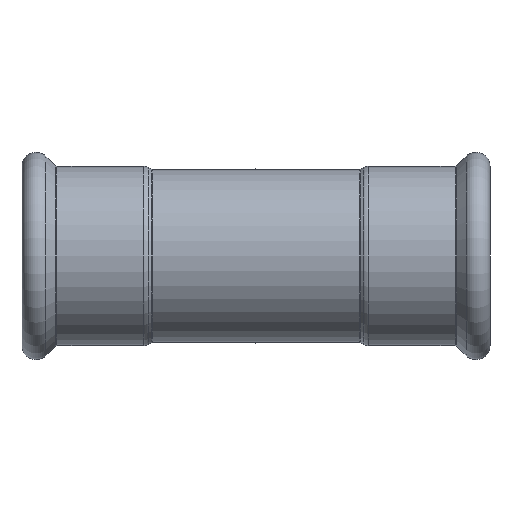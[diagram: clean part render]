
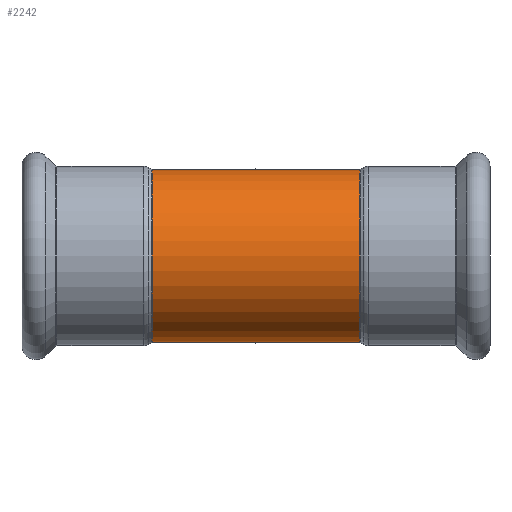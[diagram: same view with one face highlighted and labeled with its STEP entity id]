
A CAD part, front view. The second image highlights one B-rep face of the part: STEP entity #2242.
In plain terms, the highlighted cylindrical face has radius 18.5 mm (diameter 37 mm), a partial arc.
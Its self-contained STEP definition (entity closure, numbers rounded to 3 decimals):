
#10 = EDGE_LOOP ( 'NONE', ( #3985, #2024, #4286, #1943 ) ) ;
#190 = CARTESIAN_POINT ( 'NONE',  ( -22.154, 0., 18.5 ) ) ;
#227 = VECTOR ( 'NONE', #2190, 1000. ) ;
#239 = CARTESIAN_POINT ( 'NONE',  ( 22.154, 0., 18.5 ) ) ;
#346 = VERTEX_POINT ( 'NONE', #1388 ) ;
#482 = CARTESIAN_POINT ( 'NONE',  ( 22.154, 0., 0. ) ) ;
#521 = CYLINDRICAL_SURFACE ( 'NONE', #2817, 18.5 ) ;
#554 = AXIS2_PLACEMENT_3D ( 'NONE', #1704, #3741, #2699 ) ;
#564 = EDGE_CURVE ( 'NONE', #346, #1839, #1327, .T. ) ;
#831 = EDGE_CURVE ( 'NONE', #2433, #4367, #1667, .T. ) ;
#1327 = LINE ( 'NONE', #1773, #4070 ) ;
#1388 = CARTESIAN_POINT ( 'NONE',  ( 22.154, 0., -18.5 ) ) ;
#1648 = AXIS2_PLACEMENT_3D ( 'NONE', #482, #3920, #3578 ) ;
#1667 = LINE ( 'NONE', #2519, #227 ) ;
#1704 = CARTESIAN_POINT ( 'NONE',  ( -22.154, 0., 0. ) ) ;
#1730 = CIRCLE ( 'NONE', #554, 18.5 ) ;
#1773 = CARTESIAN_POINT ( 'NONE',  ( 27.146, 0., -18.5 ) ) ;
#1839 = VERTEX_POINT ( 'NONE', #2690 ) ;
#1842 = DIRECTION ( 'NONE',  ( -1., 0., 0. ) ) ;
#1943 = ORIENTED_EDGE ( 'NONE', *, *, #2872, .F. ) ;
#2024 = ORIENTED_EDGE ( 'NONE', *, *, #2162, .T. ) ;
#2112 = CIRCLE ( 'NONE', #1648, 18.5 ) ;
#2162 = EDGE_CURVE ( 'NONE', #346, #2433, #2112, .T. ) ;
#2190 = DIRECTION ( 'NONE',  ( -1., 0., 0. ) ) ;
#2242 = ADVANCED_FACE ( 'NONE', ( #2681 ), #521, .T. ) ;
#2433 = VERTEX_POINT ( 'NONE', #239 ) ;
#2505 = DIRECTION ( 'NONE',  ( 0., 0., 1. ) ) ;
#2519 = CARTESIAN_POINT ( 'NONE',  ( 27.146, 0., 18.5 ) ) ;
#2681 = FACE_OUTER_BOUND ( 'NONE', #10, .T. ) ;
#2690 = CARTESIAN_POINT ( 'NONE',  ( -22.154, 0., -18.5 ) ) ;
#2699 = DIRECTION ( 'NONE',  ( 0., 0., 1. ) ) ;
#2817 = AXIS2_PLACEMENT_3D ( 'NONE', #3233, #1842, #2505 ) ;
#2872 = EDGE_CURVE ( 'NONE', #1839, #4367, #1730, .T. ) ;
#3233 = CARTESIAN_POINT ( 'NONE',  ( 27.146, 0., 0. ) ) ;
#3578 = DIRECTION ( 'NONE',  ( 0., 0., 1. ) ) ;
#3741 = DIRECTION ( 'NONE',  ( -1., 0., 0. ) ) ;
#3920 = DIRECTION ( 'NONE',  ( -1., 0., 0. ) ) ;
#3985 = ORIENTED_EDGE ( 'NONE', *, *, #564, .F. ) ;
#4070 = VECTOR ( 'NONE', #4171, 1000. ) ;
#4171 = DIRECTION ( 'NONE',  ( -1., 0., 0. ) ) ;
#4286 = ORIENTED_EDGE ( 'NONE', *, *, #831, .T. ) ;
#4367 = VERTEX_POINT ( 'NONE', #190 ) ;
